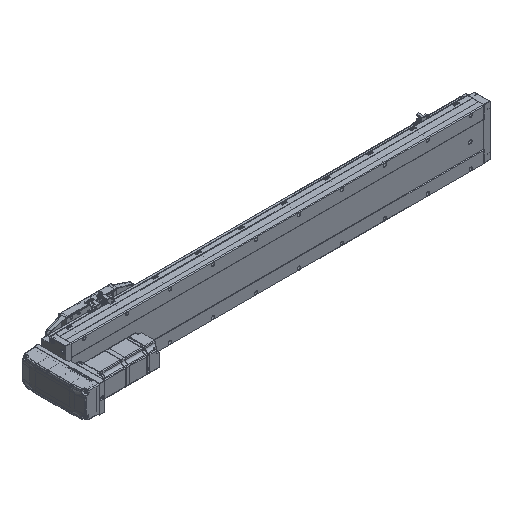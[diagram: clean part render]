
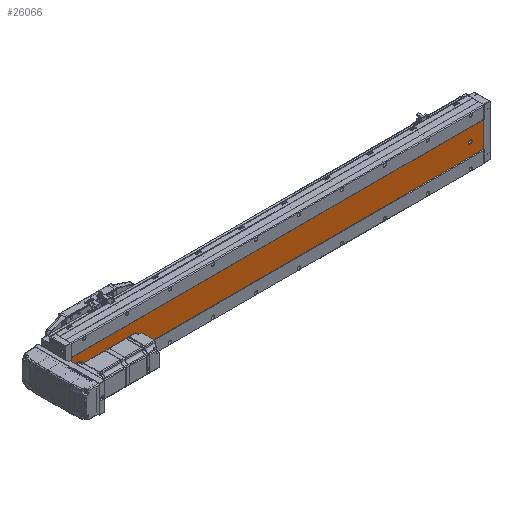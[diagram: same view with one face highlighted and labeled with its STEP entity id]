
A CAD part, isometric view. The second image highlights one B-rep face of the part: STEP entity #26066.
In plain terms, the highlighted planar face has unit normal (0, -1, 0).
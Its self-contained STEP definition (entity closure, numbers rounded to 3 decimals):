
#840 = VERTEX_POINT ( 'NONE', #60778 ) ;
#1009 = ORIENTED_EDGE ( 'NONE', *, *, #26492, .T. ) ;
#1704 = DIRECTION ( 'NONE',  ( 0., 1., 0. ) ) ;
#2932 = ORIENTED_EDGE ( 'NONE', *, *, #75466, .T. ) ;
#2977 = CARTESIAN_POINT ( 'NONE',  ( -39.892, -52.848, 30. ) ) ;
#3236 = CARTESIAN_POINT ( 'NONE',  ( -69.892, -52.848, 961. ) ) ;
#3375 = DIRECTION ( 'NONE',  ( 0., 0., 1. ) ) ;
#3406 = DIRECTION ( 'NONE',  ( 0., 0., 1. ) ) ;
#3451 = CARTESIAN_POINT ( 'NONE',  ( -43.392, -52.848, 32. ) ) ;
#3625 = CARTESIAN_POINT ( 'NONE',  ( -39.892, -52.848, 931. ) ) ;
#3861 = DIRECTION ( 'NONE',  ( 0., 1., 0. ) ) ;
#3955 = VERTEX_POINT ( 'NONE', #53678 ) ;
#4972 = CIRCLE ( 'NONE', #52470, 3.5 ) ;
#6672 = ORIENTED_EDGE ( 'NONE', *, *, #51545, .T. ) ;
#7210 = VERTEX_POINT ( 'NONE', #44234 ) ;
#7662 = ORIENTED_EDGE ( 'NONE', *, *, #11758, .T. ) ;
#7988 = CARTESIAN_POINT ( 'NONE',  ( -69.892, -52.848, 0. ) ) ;
#9705 = ORIENTED_EDGE ( 'NONE', *, *, #69204, .T. ) ;
#10204 = AXIS2_PLACEMENT_3D ( 'NONE', #22237, #3861, #46968 ) ;
#10526 = DIRECTION ( 'NONE',  ( 0., 0., 1. ) ) ;
#11234 = AXIS2_PLACEMENT_3D ( 'NONE', #29409, #59944, #10526 ) ;
#11758 = EDGE_CURVE ( 'NONE', #74640, #24086, #49776, .T. ) ;
#12261 = DIRECTION ( 'NONE',  ( 0., 1., 0. ) ) ;
#12498 = LINE ( 'NONE', #52198, #61726 ) ;
#12551 = LINE ( 'NONE', #73564, #76265 ) ;
#13516 = ORIENTED_EDGE ( 'NONE', *, *, #26502, .T. ) ;
#14445 = AXIS2_PLACEMENT_3D ( 'NONE', #51272, #1704, #39141 ) ;
#15553 = EDGE_CURVE ( 'NONE', #3955, #68651, #45576, .T. ) ;
#15881 = DIRECTION ( 'NONE',  ( 0., 1., 0. ) ) ;
#18488 = EDGE_LOOP ( 'NONE', ( #9705, #2932 ) ) ;
#21694 = DIRECTION ( 'NONE',  ( 0., 0., -1. ) ) ;
#22085 = FACE_BOUND ( 'NONE', #39688, .T. ) ;
#22237 = CARTESIAN_POINT ( 'NONE',  ( -69.892, -52.848, 961. ) ) ;
#23517 = CARTESIAN_POINT ( 'NONE',  ( -69.892, -52.848, 961. ) ) ;
#23594 = CIRCLE ( 'NONE', #11234, 3.5 ) ;
#24086 = VERTEX_POINT ( 'NONE', #71669 ) ;
#24721 = CARTESIAN_POINT ( 'NONE',  ( -43.392, -52.848, 30. ) ) ;
#25059 = VERTEX_POINT ( 'NONE', #58777 ) ;
#25628 = ORIENTED_EDGE ( 'NONE', *, *, #43633, .T. ) ;
#26066 = ADVANCED_FACE ( 'NONE', ( #60685, #38434, #22085, #53956 ), #40756, .F. ) ;
#26213 = LINE ( 'NONE', #56611, #76479 ) ;
#26492 = EDGE_CURVE ( 'NONE', #24086, #51446, #68358, .T. ) ;
#26502 = EDGE_CURVE ( 'NONE', #55437, #78998, #26830, .T. ) ;
#26830 = LINE ( 'NONE', #3236, #57758 ) ;
#29409 = CARTESIAN_POINT ( 'NONE',  ( -39.892, -52.848, 32. ) ) ;
#30818 = ORIENTED_EDGE ( 'NONE', *, *, #72028, .T. ) ;
#31631 = CARTESIAN_POINT ( 'NONE',  ( -39.892, -52.848, 30. ) ) ;
#35196 = CARTESIAN_POINT ( 'NONE',  ( -39.892, -52.848, 934.5 ) ) ;
#37101 = CARTESIAN_POINT ( 'NONE',  ( -39.892, -52.848, 931. ) ) ;
#38417 = DIRECTION ( 'NONE',  ( 1., 0., 0. ) ) ;
#38434 = FACE_BOUND ( 'NONE', #18488, .T. ) ;
#38439 = AXIS2_PLACEMENT_3D ( 'NONE', #3625, #64861, #3375 ) ;
#39141 = DIRECTION ( 'NONE',  ( 0., 0., 1. ) ) ;
#39477 = EDGE_CURVE ( 'NONE', #51446, #70161, #12498, .T. ) ;
#39688 = EDGE_LOOP ( 'NONE', ( #55241, #30818 ) ) ;
#40756 = PLANE ( 'NONE',  #10204 ) ;
#41553 = DIRECTION ( 'NONE',  ( 0., 0., 1. ) ) ;
#42137 = VERTEX_POINT ( 'NONE', #70248 ) ;
#43633 = EDGE_CURVE ( 'NONE', #840, #74640, #62847, .T. ) ;
#44234 = CARTESIAN_POINT ( 'NONE',  ( -39.892, -52.848, 827.5 ) ) ;
#45576 = CIRCLE ( 'NONE', #38439, 3.5 ) ;
#46100 = AXIS2_PLACEMENT_3D ( 'NONE', #78570, #60499, #41553 ) ;
#46968 = DIRECTION ( 'NONE',  ( 0., 0., 1. ) ) ;
#47307 = ORIENTED_EDGE ( 'NONE', *, *, #39477, .T. ) ;
#49523 = EDGE_CURVE ( 'NONE', #70161, #840, #23594, .T. ) ;
#49776 = CIRCLE ( 'NONE', #56326, 3.5 ) ;
#50100 = DIRECTION ( 'NONE',  ( 0., 0., -1. ) ) ;
#51272 = CARTESIAN_POINT ( 'NONE',  ( -39.892, -52.848, 831. ) ) ;
#51285 = EDGE_CURVE ( 'NONE', #55437, #42137, #12551, .T. ) ;
#51446 = VERTEX_POINT ( 'NONE', #24721 ) ;
#51545 = EDGE_CURVE ( 'NONE', #78998, #25059, #70212, .T. ) ;
#51817 = EDGE_LOOP ( 'NONE', ( #6672, #67161, #58150, #13516 ) ) ;
#52198 = CARTESIAN_POINT ( 'NONE',  ( -43.392, -52.848, 961. ) ) ;
#52470 = AXIS2_PLACEMENT_3D ( 'NONE', #37101, #73583, #79769 ) ;
#53678 = CARTESIAN_POINT ( 'NONE',  ( -39.892, -52.848, 927.5 ) ) ;
#53956 = FACE_OUTER_BOUND ( 'NONE', #51817, .T. ) ;
#54395 = CIRCLE ( 'NONE', #14445, 3.5 ) ;
#55241 = ORIENTED_EDGE ( 'NONE', *, *, #15553, .T. ) ;
#55437 = VERTEX_POINT ( 'NONE', #23517 ) ;
#56326 = AXIS2_PLACEMENT_3D ( 'NONE', #31631, #12261, #74031 ) ;
#56611 = CARTESIAN_POINT ( 'NONE',  ( -9.892, -52.848, 961. ) ) ;
#57001 = CARTESIAN_POINT ( 'NONE',  ( -69.892, -52.848, 0. ) ) ;
#57758 = VECTOR ( 'NONE', #70957, 1000. ) ;
#58150 = ORIENTED_EDGE ( 'NONE', *, *, #51285, .F. ) ;
#58777 = CARTESIAN_POINT ( 'NONE',  ( -9.892, -52.848, 0. ) ) ;
#59944 = DIRECTION ( 'NONE',  ( 0., 1., 0. ) ) ;
#60499 = DIRECTION ( 'NONE',  ( 0., 1., 0. ) ) ;
#60685 = FACE_BOUND ( 'NONE', #70022, .T. ) ;
#60778 = CARTESIAN_POINT ( 'NONE',  ( -36.392, -52.848, 32. ) ) ;
#61529 = VECTOR ( 'NONE', #38417, 1000. ) ;
#61726 = VECTOR ( 'NONE', #3406, 1000. ) ;
#62829 = CARTESIAN_POINT ( 'NONE',  ( -36.392, -52.848, 30. ) ) ;
#62847 = LINE ( 'NONE', #71319, #64769 ) ;
#64161 = DIRECTION ( 'NONE',  ( 0., 0., 1. ) ) ;
#64769 = VECTOR ( 'NONE', #21694, 1000. ) ;
#64861 = DIRECTION ( 'NONE',  ( 0., 1., 0. ) ) ;
#66610 = AXIS2_PLACEMENT_3D ( 'NONE', #2977, #15881, #64161 ) ;
#67161 = ORIENTED_EDGE ( 'NONE', *, *, #71795, .F. ) ;
#67338 = ORIENTED_EDGE ( 'NONE', *, *, #49523, .T. ) ;
#67361 = DIRECTION ( 'NONE',  ( 1., 0., 0. ) ) ;
#68358 = CIRCLE ( 'NONE', #66610, 3.5 ) ;
#68651 = VERTEX_POINT ( 'NONE', #35196 ) ;
#69049 = VERTEX_POINT ( 'NONE', #76472 ) ;
#69204 = EDGE_CURVE ( 'NONE', #7210, #69049, #72953, .T. ) ;
#70022 = EDGE_LOOP ( 'NONE', ( #67338, #25628, #7662, #1009, #47307 ) ) ;
#70161 = VERTEX_POINT ( 'NONE', #3451 ) ;
#70212 = LINE ( 'NONE', #7988, #61529 ) ;
#70248 = CARTESIAN_POINT ( 'NONE',  ( -9.892, -52.848, 961. ) ) ;
#70957 = DIRECTION ( 'NONE',  ( 0., 0., -1. ) ) ;
#71319 = CARTESIAN_POINT ( 'NONE',  ( -36.392, -52.848, 961. ) ) ;
#71669 = CARTESIAN_POINT ( 'NONE',  ( -39.892, -52.848, 26.5 ) ) ;
#71795 = EDGE_CURVE ( 'NONE', #42137, #25059, #26213, .T. ) ;
#72028 = EDGE_CURVE ( 'NONE', #68651, #3955, #4972, .T. ) ;
#72953 = CIRCLE ( 'NONE', #46100, 3.5 ) ;
#73564 = CARTESIAN_POINT ( 'NONE',  ( -69.892, -52.848, 961. ) ) ;
#73583 = DIRECTION ( 'NONE',  ( 0., 1., 0. ) ) ;
#74031 = DIRECTION ( 'NONE',  ( 0., 0., 1. ) ) ;
#74640 = VERTEX_POINT ( 'NONE', #62829 ) ;
#75466 = EDGE_CURVE ( 'NONE', #69049, #7210, #54395, .T. ) ;
#76265 = VECTOR ( 'NONE', #67361, 1000. ) ;
#76472 = CARTESIAN_POINT ( 'NONE',  ( -39.892, -52.848, 834.5 ) ) ;
#76479 = VECTOR ( 'NONE', #50100, 1000. ) ;
#78570 = CARTESIAN_POINT ( 'NONE',  ( -39.892, -52.848, 831. ) ) ;
#78998 = VERTEX_POINT ( 'NONE', #57001 ) ;
#79769 = DIRECTION ( 'NONE',  ( 0., 0., 1. ) ) ;
